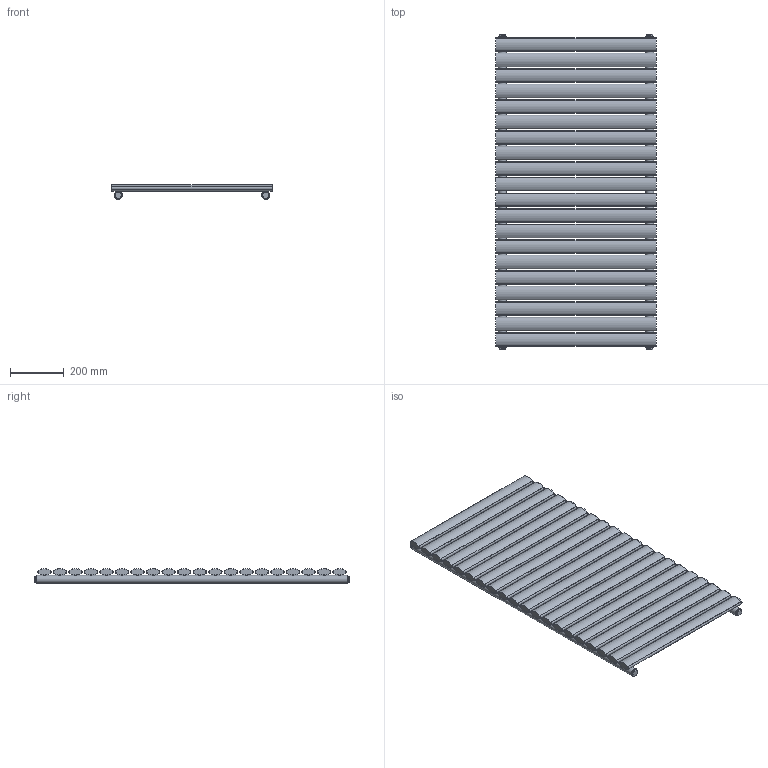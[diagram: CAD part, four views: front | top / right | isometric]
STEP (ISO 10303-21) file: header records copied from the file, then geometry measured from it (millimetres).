
FILE_DESCRIPTION(/* description */ (''),/* implementation_level */ '2;1');
FILE_NAME(/* name */ 'C:\Grzejniki\13DLUXRAD\pokojowe\FORTUNA\FORTUNA POJEDYNCZA 600x1164.iam.stp',/* time_stamp */ '2016-06-28T17:32:24+02:00',/* author */ ('m.szydziak'),/* organization */ (''),/* preprocessor_version */ 'ST-DEVELOPER v16.5',/* originating_system */ 'Autodesk Inventor 2017',/* authorisation */ '');
FILE_SCHEMA (('AUTOMOTIVE_DESIGN { 1 0 10303 214 3 1 1 }'));
Length unit declared in the file: millimetre
Products named in the file (5): FORTUNA POJEDYNCZA 600x1164; fi30x1,5x1164; 50x25x1,2x600; zaślepka fi30 G0,5inch; korek
Assembly tree (30 placements, depth 2):
  FORTUNA POJEDYNCZA 600x1164
    fi30x1,5x1164  x2
    50x25x1,2x600  x20
    zaślepka fi30 G0,5inch  x4
    korek  x4
Bounding box: 600 x 1176 x 54.86 mm (x, y, z)
Volume: 2042600.7 mm3; surface area: 3291383.6 mm2
Topology: 30 solids, 30 shells, 396 faces, 1036 edges, 740 vertices
Faces by surface type: cylinder 248, plane 148
Full cylindrical faces by diameter (mm): 5 x32, 5.8 x40, 18.631 x4, 24 x4, 27 x6, 30 x2
Entity records: 3135 total; most frequent: CARTESIAN_POINT 1538, DIRECTION 282, ORIENTED_EDGE 246, AXIS2_PLACEMENT_3D 125, EDGE_CURVE 123, EDGE_LOOP 116, VERTEX_POINT 103, FACE_BOUND 63
